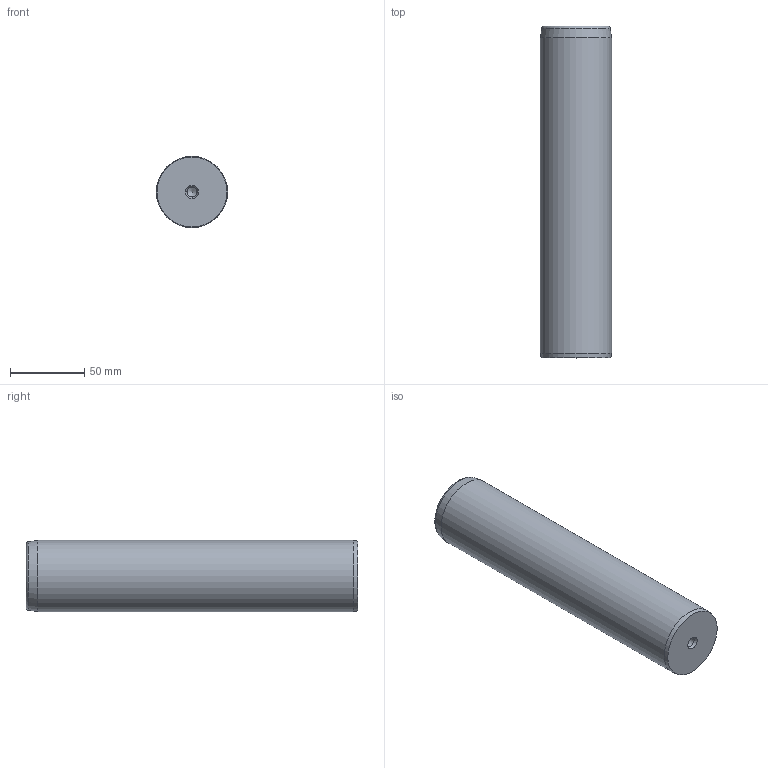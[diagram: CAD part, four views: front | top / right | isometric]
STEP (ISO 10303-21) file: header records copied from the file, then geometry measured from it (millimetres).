
FILE_DESCRIPTION( ( 'STEP AP203' ), '1' );
FILE_NAME( 'D:/Cuma/D14/D14_48224.step', '2003-01-18T23:09:28', ( ' ' ), ( ' ' ), 'XStep 1.0', ' ', ' ' );
FILE_SCHEMA( ( 'CONFIG_CONTROL_DESIGN' ) );
Length unit declared in the file: metre
Products named in the file (1): 1
Bounding box: 48 x 224 x 48 mm (x, y, z)
Volume: 402525.8 mm3; surface area: 38162.5 mm2
Topology: 1 solids, 1 shells, 14 faces, 29 edges, 17 vertices
Faces by surface type: cone 6, cylinder 5, plane 2, torus 1
Full cylindrical faces by diameter (mm): 6.75 x4, 48 x1
Entity records: 327 total; most frequent: DIRECTION 56, CARTESIAN_POINT 43, AXIS2_PLACEMENT_3D 28, EDGE_LOOP 26, ORIENTED_EDGE 26, FACE_OUTER_BOUND 20, VERTEX_POINT 15, ADVANCED_FACE 14
